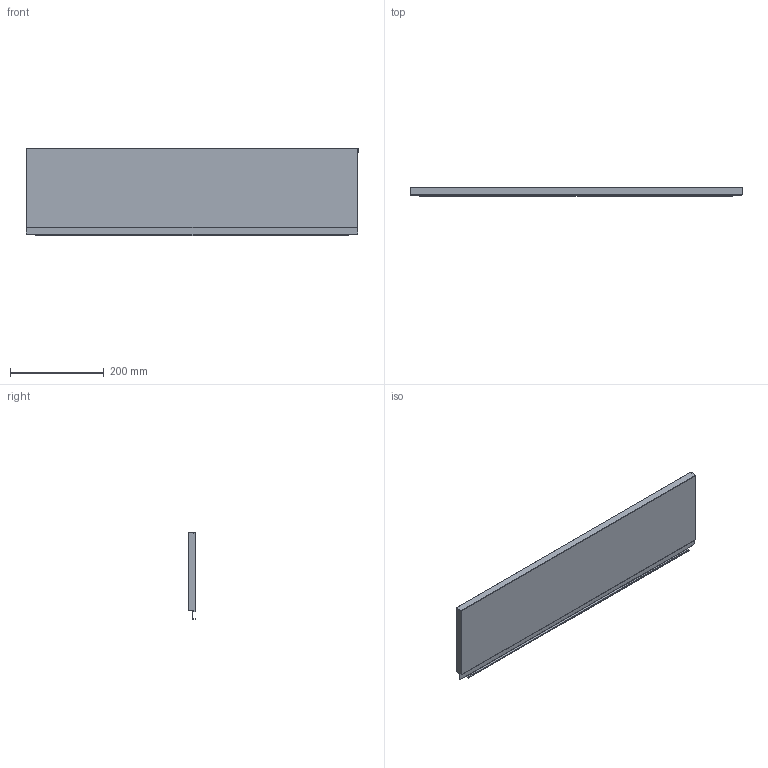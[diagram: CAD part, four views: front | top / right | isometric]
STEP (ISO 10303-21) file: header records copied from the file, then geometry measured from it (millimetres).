
FILE_DESCRIPTION (( 'STEP AP214' ), '1' );
FILE_NAME ('_STRW_H186_KAB_800.step', '2010-08-24T14:40:27', ( 'grass' ), ( '' ), 'SwSTEP 2.0', 'SolidWorks 2009', '' );
FILE_SCHEMA (( 'AUTOMOTIVE_DESIGN' ));
Length unit declared in the file: millimetre
Products named in the file (1): _STRW_H186_KAB_800
Bounding box: 710 x 17 x 186.14 mm (x, y, z)
Volume: 126110 mm3; surface area: 316830.5 mm2
Topology: 1 solids, 1 shells, 76 faces, 214 edges, 140 vertices
Faces by surface type: plane 54, cylinder 22
Entity records: 2472 total; most frequent: CARTESIAN_POINT 431, ORIENTED_EDGE 428, DIRECTION 412, EDGE_CURVE 214, LINE 170, VECTOR 170, VERTEX_POINT 140, AXIS2_PLACEMENT_3D 121
